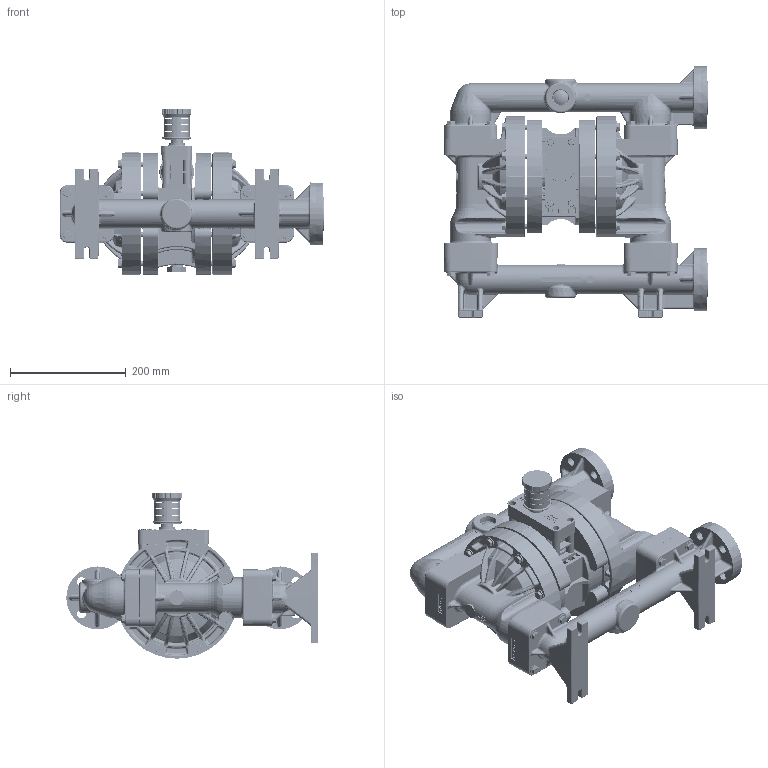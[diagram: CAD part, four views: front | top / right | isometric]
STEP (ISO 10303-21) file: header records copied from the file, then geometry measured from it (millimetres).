
FILE_DESCRIPTION((''),'2;1');
FILE_NAME('P200_ADVANCED_POLY','2009-04-23T',('Roy'),(''),'PRO/ENGINEER BY PARAMETRIC TECHNOLOGY CORPORATION, 2008400','PRO/ENGINEER BY PARAMETRIC TECHNOLOGY CORPORATION, 2008400','');
FILE_SCHEMA(('CONFIG_CONTROL_DESIGN'));
Products named in the file (1): P200_ADVANCED_POLY
Bounding box: 457.09 x 434.16 x 287.5 mm (x, y, z)
Volume: 7650793.2 mm3; surface area: 1449001.4 mm2
Topology: 7 solids, 7 shells, 13147 faces, 31806 edges, 19244 vertices
Faces by surface type: plane 5151, bspline 3113, cylinder 2093, cone 1054, torus 829, sphere 811, extrusion 96
Entity records: 693570 total; most frequent: CARTESIAN_POINT 411615, ORIENTED_EDGE 63550, DIRECTION 51894, EDGE_CURVE 31775, AXIS2_PLACEMENT_3D 19266, VERTEX_POINT 19244, EDGE_LOOP 13857, VECTOR 13362
